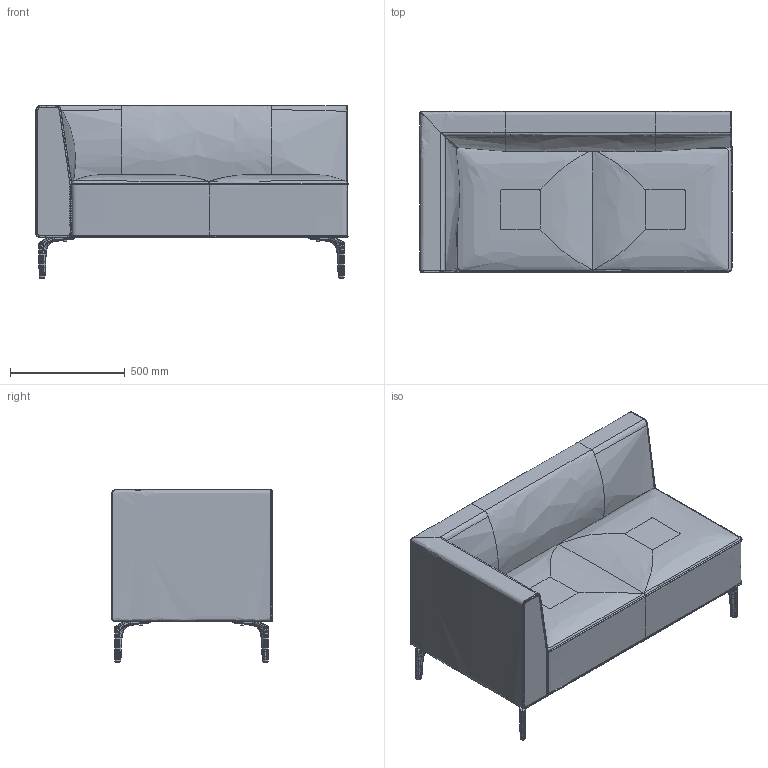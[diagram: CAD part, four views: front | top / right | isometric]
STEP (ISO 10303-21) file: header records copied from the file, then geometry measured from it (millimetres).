
FILE_DESCRIPTION(/* description */ (''),/* implementation_level */ '2;1');
FILE_NAME(/* name */ 'kinoshita_abord_f015-4',/* time_stamp */ '2025-09-16T11:13:42+09:00',/* author */ (''),/* organization */ (''),/* preprocessor_version */ 'ST-DEVELOPER v16.5',/* originating_system */ '',/* authorisation */ '');
FILE_SCHEMA (('AUTOMOTIVE_DESIGN'));
Products named in the file (1): Document
Bounding box: 1360.5 x 700.9 x 753.48 mm (x, y, z)
Volume: 428234 mm3; surface area: 4508500.3 mm2
Topology: 10 solids, 23 shells, 1676 faces, 3808 edges, 2154 vertices
Faces by surface type: bspline 1525, plane 151
Entity records: 213462 total; most frequent: CARTESIAN_POINT 189802, ORIENTED_EDGE 7509, EDGE_CURVE 3785, B_SPLINE_CURVE_WITH_KNOTS 3290, VERTEX_POINT 2156, EDGE_LOOP 1716, ADVANCED_FACE 1660, FACE_OUTER_BOUND 1660
